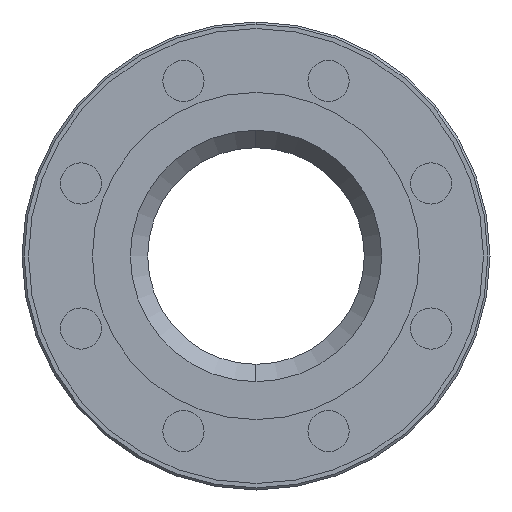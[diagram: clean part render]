
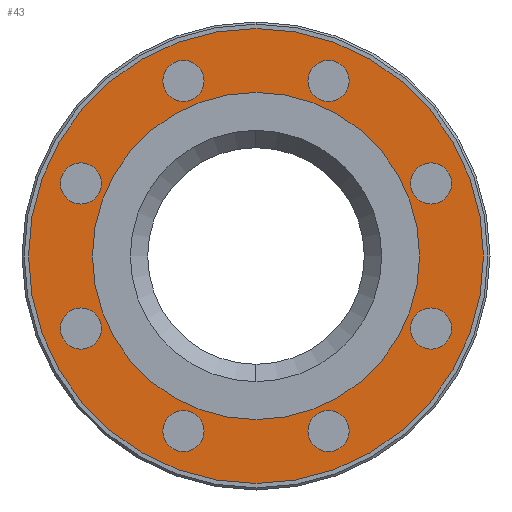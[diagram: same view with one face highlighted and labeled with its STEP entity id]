
A CAD part, left-side view. The second image highlights one B-rep face of the part: STEP entity #43.
In plain terms, the highlighted planar face has unit normal (-1, 0, 0).
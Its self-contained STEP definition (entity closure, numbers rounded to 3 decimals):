
#43=ADVANCED_FACE('',(#190,#191,#192,#193,#194,#195,#196,#197,#198,#199),#189,.T.);
#189=PLANE('',#1414);
#190=FACE_OUTER_BOUND('',#1415,.T.);
#191=FACE_BOUND('',#1416,.T.);
#192=FACE_BOUND('',#1417,.T.);
#193=FACE_BOUND('',#1418,.T.);
#194=FACE_BOUND('',#1419,.T.);
#195=FACE_BOUND('',#1420,.T.);
#196=FACE_BOUND('',#1421,.T.);
#197=FACE_BOUND('',#1422,.T.);
#198=FACE_BOUND('',#1423,.T.);
#199=FACE_BOUND('',#1424,.T.);
#1411=CARTESIAN_POINT('',(2.,-191.865,-220.));
#1412=DIRECTION('',(-1.,0.,0.));
#1413=DIRECTION('',(0.,0.,1.));
#1414=AXIS2_PLACEMENT_3D('',#1411,#1412,#1413);
#1415=EDGE_LOOP('',(#2422,#2423));
#1416=EDGE_LOOP('',(#2424,#2425));
#1417=EDGE_LOOP('',(#2426,#2427));
#1418=EDGE_LOOP('',(#2428,#2429));
#1419=EDGE_LOOP('',(#2430,#2431));
#1420=EDGE_LOOP('',(#2432,#2433));
#1421=EDGE_LOOP('',(#2434,#2435));
#1422=EDGE_LOOP('',(#2436,#2437));
#1423=EDGE_LOOP('',(#2438,#2439));
#1424=EDGE_LOOP('',(#2440,#2441));
#2422=ORIENTED_EDGE('',*,*,#2988,.T.);
#2423=ORIENTED_EDGE('',*,*,#2989,.T.);
#2424=ORIENTED_EDGE('',*,*,#2990,.T.);
#2425=ORIENTED_EDGE('',*,*,#2991,.T.);
#2426=ORIENTED_EDGE('',*,*,#2992,.T.);
#2427=ORIENTED_EDGE('',*,*,#2993,.T.);
#2428=ORIENTED_EDGE('',*,*,#2994,.T.);
#2429=ORIENTED_EDGE('',*,*,#2995,.T.);
#2430=ORIENTED_EDGE('',*,*,#2996,.T.);
#2431=ORIENTED_EDGE('',*,*,#2997,.T.);
#2432=ORIENTED_EDGE('',*,*,#2998,.F.);
#2433=ORIENTED_EDGE('',*,*,#2999,.F.);
#2434=ORIENTED_EDGE('',*,*,#3000,.T.);
#2435=ORIENTED_EDGE('',*,*,#3001,.T.);
#2436=ORIENTED_EDGE('',*,*,#3002,.T.);
#2437=ORIENTED_EDGE('',*,*,#3003,.T.);
#2438=ORIENTED_EDGE('',*,*,#3004,.T.);
#2439=ORIENTED_EDGE('',*,*,#3005,.T.);
#2440=ORIENTED_EDGE('',*,*,#3006,.T.);
#2441=ORIENTED_EDGE('',*,*,#3007,.T.);
#2988=EDGE_CURVE('',#3330,#3331,#3332,.T.);
#2989=EDGE_CURVE('',#3331,#3330,#3338,.T.);
#2990=EDGE_CURVE('',#3344,#3345,#3346,.T.);
#2991=EDGE_CURVE('',#3345,#3344,#3352,.T.);
#2992=EDGE_CURVE('',#3358,#3359,#3360,.T.);
#2993=EDGE_CURVE('',#3359,#3358,#3366,.T.);
#2994=EDGE_CURVE('',#3372,#3373,#3374,.T.);
#2995=EDGE_CURVE('',#3373,#3372,#3380,.T.);
#2996=EDGE_CURVE('',#3386,#3387,#3388,.T.);
#2997=EDGE_CURVE('',#3387,#3386,#3394,.T.);
#2998=EDGE_CURVE('',#3400,#3401,#3402,.T.);
#2999=EDGE_CURVE('',#3401,#3400,#3408,.T.);
#3000=EDGE_CURVE('',#3414,#3415,#3416,.T.);
#3001=EDGE_CURVE('',#3415,#3414,#3422,.T.);
#3002=EDGE_CURVE('',#3428,#3429,#3430,.T.);
#3003=EDGE_CURVE('',#3429,#3428,#3436,.T.);
#3004=EDGE_CURVE('',#3442,#3443,#3444,.T.);
#3005=EDGE_CURVE('',#3443,#3442,#3450,.T.);
#3006=EDGE_CURVE('',#3456,#3457,#3458,.T.);
#3007=EDGE_CURVE('',#3457,#3456,#3464,.T.);
#3330=VERTEX_POINT('',#5185);
#3331=VERTEX_POINT('',#5186);
#3332=CIRCLE('',#5190,105.);
#3338=CIRCLE('',#5194,105.);
#3344=VERTEX_POINT('',#5195);
#3345=VERTEX_POINT('',#5196);
#3346=CIRCLE('',#5200,9.5);
#3352=CIRCLE('',#5204,9.5);
#3358=VERTEX_POINT('',#5205);
#3359=VERTEX_POINT('',#5206);
#3360=CIRCLE('',#5210,9.5);
#3366=CIRCLE('',#5214,9.5);
#3372=VERTEX_POINT('',#5215);
#3373=VERTEX_POINT('',#5216);
#3374=CIRCLE('',#5220,9.5);
#3380=CIRCLE('',#5224,9.5);
#3386=VERTEX_POINT('',#5225);
#3387=VERTEX_POINT('',#5226);
#3388=CIRCLE('',#5230,9.5);
#3394=CIRCLE('',#5234,9.5);
#3400=VERTEX_POINT('',#5235);
#3401=VERTEX_POINT('',#5236);
#3402=CIRCLE('',#5240,75.5);
#3408=CIRCLE('',#5244,75.5);
#3414=VERTEX_POINT('',#5245);
#3415=VERTEX_POINT('',#5246);
#3416=CIRCLE('',#5250,9.5);
#3422=CIRCLE('',#5254,9.5);
#3428=VERTEX_POINT('',#5255);
#3429=VERTEX_POINT('',#5256);
#3430=CIRCLE('',#5260,9.5);
#3436=CIRCLE('',#5264,9.5);
#3442=VERTEX_POINT('',#5265);
#3443=VERTEX_POINT('',#5266);
#3444=CIRCLE('',#5270,9.5);
#3450=CIRCLE('',#5274,9.5);
#3456=VERTEX_POINT('',#5275);
#3457=VERTEX_POINT('',#5276);
#3458=CIRCLE('',#5280,9.5);
#3464=CIRCLE('',#5284,9.5);
#5185=CARTESIAN_POINT('',(2.,0.,105.));
#5186=CARTESIAN_POINT('',(2.,0.,-105.));
#5187=CARTESIAN_POINT('',(2.,0.,0.));
#5188=DIRECTION('',(-1.,0.,0.));
#5189=DIRECTION('',(0.,0.,1.));
#5190=AXIS2_PLACEMENT_3D('',#5187,#5188,#5189);
#5191=CARTESIAN_POINT('',(2.,0.,0.));
#5192=DIRECTION('',(-1.,0.,0.));
#5193=DIRECTION('',(0.,0.,1.));
#5194=AXIS2_PLACEMENT_3D('',#5191,#5192,#5193);
#5195=CARTESIAN_POINT('',(2.,33.485,-71.339));
#5196=CARTESIAN_POINT('',(2.,33.485,-90.339));
#5197=CARTESIAN_POINT('',(2.,33.485,-80.839));
#5198=DIRECTION('',(1.,0.,0.));
#5199=DIRECTION('',(0.,0.,1.));
#5200=AXIS2_PLACEMENT_3D('',#5197,#5198,#5199);
#5201=CARTESIAN_POINT('',(2.,33.485,-80.839));
#5202=DIRECTION('',(1.,0.,0.));
#5203=DIRECTION('',(0.,0.,1.));
#5204=AXIS2_PLACEMENT_3D('',#5201,#5202,#5203);
#5205=CARTESIAN_POINT('',(2.,-80.839,-23.985));
#5206=CARTESIAN_POINT('',(2.,-80.839,-42.985));
#5207=CARTESIAN_POINT('',(2.,-80.839,-33.485));
#5208=DIRECTION('',(1.,0.,0.));
#5209=DIRECTION('',(0.,0.,1.));
#5210=AXIS2_PLACEMENT_3D('',#5207,#5208,#5209);
#5211=CARTESIAN_POINT('',(2.,-80.839,-33.485));
#5212=DIRECTION('',(1.,0.,0.));
#5213=DIRECTION('',(0.,0.,1.));
#5214=AXIS2_PLACEMENT_3D('',#5211,#5212,#5213);
#5215=CARTESIAN_POINT('',(2.,-33.485,90.339));
#5216=CARTESIAN_POINT('',(2.,-33.485,71.339));
#5217=CARTESIAN_POINT('',(2.,-33.485,80.839));
#5218=DIRECTION('',(1.,0.,0.));
#5219=DIRECTION('',(0.,0.,1.));
#5220=AXIS2_PLACEMENT_3D('',#5217,#5218,#5219);
#5221=CARTESIAN_POINT('',(2.,-33.485,80.839));
#5222=DIRECTION('',(1.,0.,0.));
#5223=DIRECTION('',(0.,0.,1.));
#5224=AXIS2_PLACEMENT_3D('',#5221,#5222,#5223);
#5225=CARTESIAN_POINT('',(2.,80.839,42.985));
#5226=CARTESIAN_POINT('',(2.,80.839,23.985));
#5227=CARTESIAN_POINT('',(2.,80.839,33.485));
#5228=DIRECTION('',(1.,0.,0.));
#5229=DIRECTION('',(0.,0.,1.));
#5230=AXIS2_PLACEMENT_3D('',#5227,#5228,#5229);
#5231=CARTESIAN_POINT('',(2.,80.839,33.485));
#5232=DIRECTION('',(1.,0.,0.));
#5233=DIRECTION('',(0.,0.,1.));
#5234=AXIS2_PLACEMENT_3D('',#5231,#5232,#5233);
#5235=CARTESIAN_POINT('',(2.,0.,-75.5));
#5236=CARTESIAN_POINT('',(2.,0.,75.5));
#5237=CARTESIAN_POINT('',(2.,0.,0.));
#5238=DIRECTION('',(-1.,0.,0.));
#5239=DIRECTION('',(0.,0.,1.));
#5240=AXIS2_PLACEMENT_3D('',#5237,#5238,#5239);
#5241=CARTESIAN_POINT('',(2.,0.,0.));
#5242=DIRECTION('',(-1.,0.,0.));
#5243=DIRECTION('',(0.,0.,1.));
#5244=AXIS2_PLACEMENT_3D('',#5241,#5242,#5243);
#5245=CARTESIAN_POINT('',(2.,-80.839,42.985));
#5246=CARTESIAN_POINT('',(2.,-80.839,23.985));
#5247=CARTESIAN_POINT('',(2.,-80.839,33.485));
#5248=DIRECTION('',(1.,0.,0.));
#5249=DIRECTION('',(0.,0.,1.));
#5250=AXIS2_PLACEMENT_3D('',#5247,#5248,#5249);
#5251=CARTESIAN_POINT('',(2.,-80.839,33.485));
#5252=DIRECTION('',(1.,0.,0.));
#5253=DIRECTION('',(0.,0.,1.));
#5254=AXIS2_PLACEMENT_3D('',#5251,#5252,#5253);
#5255=CARTESIAN_POINT('',(2.,-33.485,-71.339));
#5256=CARTESIAN_POINT('',(2.,-33.485,-90.339));
#5257=CARTESIAN_POINT('',(2.,-33.485,-80.839));
#5258=DIRECTION('',(1.,0.,0.));
#5259=DIRECTION('',(0.,0.,1.));
#5260=AXIS2_PLACEMENT_3D('',#5257,#5258,#5259);
#5261=CARTESIAN_POINT('',(2.,-33.485,-80.839));
#5262=DIRECTION('',(1.,0.,0.));
#5263=DIRECTION('',(0.,0.,1.));
#5264=AXIS2_PLACEMENT_3D('',#5261,#5262,#5263);
#5265=CARTESIAN_POINT('',(2.,80.839,-23.985));
#5266=CARTESIAN_POINT('',(2.,80.839,-42.985));
#5267=CARTESIAN_POINT('',(2.,80.839,-33.485));
#5268=DIRECTION('',(1.,0.,0.));
#5269=DIRECTION('',(0.,0.,1.));
#5270=AXIS2_PLACEMENT_3D('',#5267,#5268,#5269);
#5271=CARTESIAN_POINT('',(2.,80.839,-33.485));
#5272=DIRECTION('',(1.,0.,0.));
#5273=DIRECTION('',(0.,0.,1.));
#5274=AXIS2_PLACEMENT_3D('',#5271,#5272,#5273);
#5275=CARTESIAN_POINT('',(2.,33.485,90.339));
#5276=CARTESIAN_POINT('',(2.,33.485,71.339));
#5277=CARTESIAN_POINT('',(2.,33.485,80.839));
#5278=DIRECTION('',(1.,0.,0.));
#5279=DIRECTION('',(0.,0.,1.));
#5280=AXIS2_PLACEMENT_3D('',#5277,#5278,#5279);
#5281=CARTESIAN_POINT('',(2.,33.485,80.839));
#5282=DIRECTION('',(1.,0.,0.));
#5283=DIRECTION('',(0.,0.,1.));
#5284=AXIS2_PLACEMENT_3D('',#5281,#5282,#5283);
